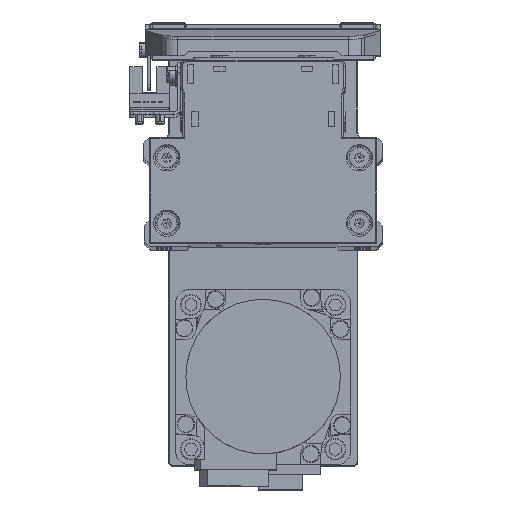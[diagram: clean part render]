
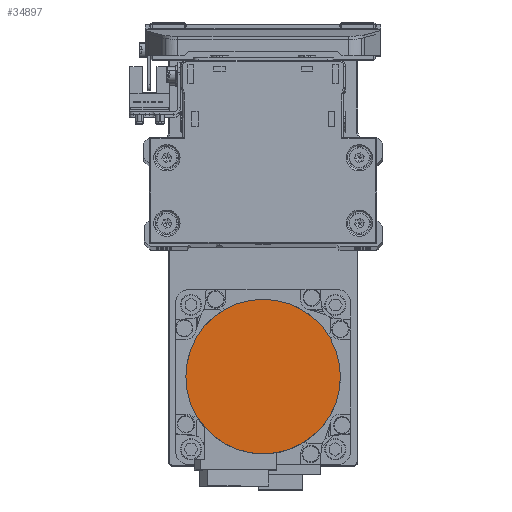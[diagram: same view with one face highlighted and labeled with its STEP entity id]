
A CAD part, top view. The second image highlights one B-rep face of the part: STEP entity #34897.
In plain terms, the highlighted planar face has unit normal (0, 0, 1) as drawn and (0, 0, -1) by its records, which use the part's own axes.
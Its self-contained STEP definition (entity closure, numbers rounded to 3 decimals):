
#1133 = DIRECTION ( 'NONE',  ( 0., 0., 1. ) ) ;
#1413 = CIRCLE ( 'NONE', #24514, 26.5 ) ;
#2046 = AXIS2_PLACEMENT_3D ( 'NONE', #25165, #37780, #9489 ) ;
#9489 = DIRECTION ( 'NONE',  ( 1., 0., 0. ) ) ;
#10291 = DIRECTION ( 'NONE',  ( 0., 0., 1. ) ) ;
#12585 = PLANE ( 'NONE',  #2046 ) ;
#13761 = DIRECTION ( 'NONE',  ( -1., 0., 0. ) ) ;
#13938 = AXIS2_PLACEMENT_3D ( 'NONE', #38577, #10291, #22880 ) ;
#16135 = VERTEX_POINT ( 'NONE', #16826 ) ;
#16826 = CARTESIAN_POINT ( 'NONE',  ( -26.5, 0., -109.7 ) ) ;
#22880 = DIRECTION ( 'NONE',  ( 1., 0., 0. ) ) ;
#24514 = AXIS2_PLACEMENT_3D ( 'NONE', #29436, #1133, #13761 ) ;
#25165 = CARTESIAN_POINT ( 'NONE',  ( 0., 0., -109.7 ) ) ;
#25894 = ORIENTED_EDGE ( 'NONE', *, *, #35026, .F. ) ;
#26192 = VERTEX_POINT ( 'NONE', #30342 ) ;
#27900 = FACE_OUTER_BOUND ( 'NONE', #28921, .T. ) ;
#28921 = EDGE_LOOP ( 'NONE', ( #36060, #25894 ) ) ;
#29436 = CARTESIAN_POINT ( 'NONE',  ( 0., 0., -109.7 ) ) ;
#30342 = CARTESIAN_POINT ( 'NONE',  ( 26.5, 0., -109.7 ) ) ;
#31735 = CIRCLE ( 'NONE', #13938, 26.5 ) ;
#34897 = ADVANCED_FACE ( 'NONE', ( #27900 ), #12585, .F. ) ;
#35026 = EDGE_CURVE ( 'NONE', #26192, #16135, #31735, .T. ) ;
#35536 = EDGE_CURVE ( 'NONE', #16135, #26192, #1413, .T. ) ;
#36060 = ORIENTED_EDGE ( 'NONE', *, *, #35536, .F. ) ;
#37780 = DIRECTION ( 'NONE',  ( 0., 0., 1. ) ) ;
#38577 = CARTESIAN_POINT ( 'NONE',  ( 0., 0., -109.7 ) ) ;
